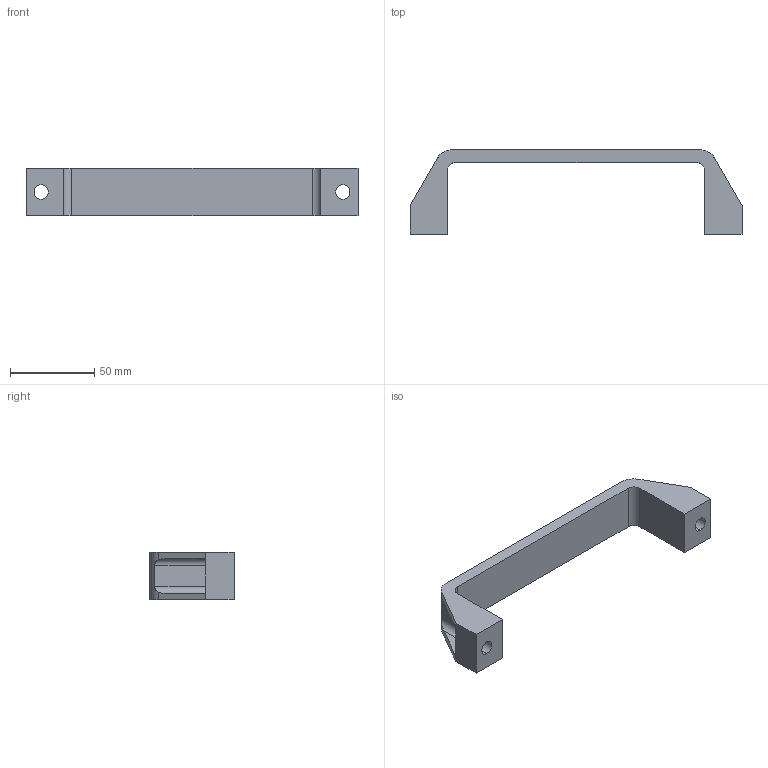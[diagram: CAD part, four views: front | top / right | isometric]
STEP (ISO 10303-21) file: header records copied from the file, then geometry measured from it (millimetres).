
FILE_DESCRIPTION (( 'STEP AP203' ), '1' );
FILE_NAME ('TCEH200B Handgreep 2 Kunststof (01-06-2021).STEP', '2021-06-01T06:09:45', ( '' ), ( '' ), 'SwSTEP 2.0', 'SolidWorks 2020', '' );
FILE_SCHEMA (( 'CONFIG_CONTROL_DESIGN' ));
Length unit declared in the file: millimetre
Products named in the file (1): TCEH200B Handgreep 2 Kunststof (01-06-2021)
Bounding box: 197 x 50 x 28 mm (x, y, z)
Volume: 61816.9 mm3; surface area: 23057.2 mm2
Topology: 1 solids, 1 shells, 40 faces, 104 edges, 68 vertices
Faces by surface type: plane 24, cylinder 16
Entity records: 1357 total; most frequent: CARTESIAN_POINT 281, ORIENTED_EDGE 208, DIRECTION 206, EDGE_CURVE 104, AXIS2_PLACEMENT_3D 69, VECTOR 68, VERTEX_POINT 68, LINE 68
